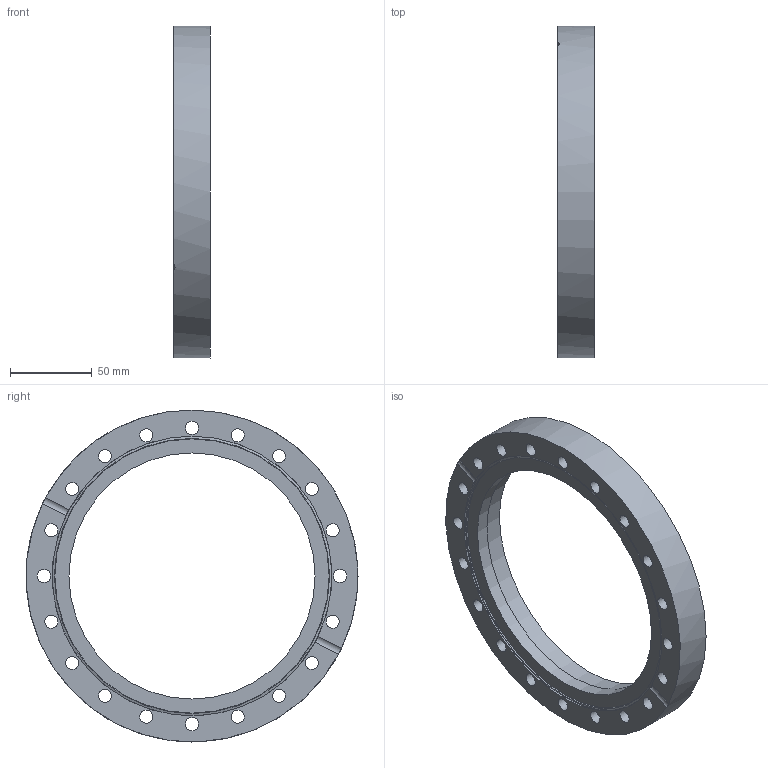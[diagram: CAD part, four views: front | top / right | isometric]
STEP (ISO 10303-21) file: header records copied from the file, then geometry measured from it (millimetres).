
FILE_DESCRIPTION( ( 'Unknown' ), '1' );
FILE_NAME( 'X:/Daten ( aktueller Bestand )/Projekte und Zeichnungen/Solid Edge/STP-Dateien/CF-Teile/7515FG4.stp', 'Unknown', ( 'Unknown' ), ( 'Unknown' ), 'PSStep 14.0', 'Unknown', ' ' );
FILE_SCHEMA( ( 'AUTOMOTIVE_DESIGN { 1 0 10303 214 1 1 1 1 }' ) );
Length unit declared in the file: millimetre
Products named in the file (2): Assem1; 1_9
Assembly tree (1 placements, depth 2):
  Assem1
    1_9
Bounding box: 22.3 x 203 x 203 mm (x, y, z)
Volume: 284024.4 mm3; surface area: 63545.9 mm2
Topology: 1 solids, 1 shells, 33 faces, 108 edges, 78 vertices
Faces by surface type: cylinder 26, plane 5, cone 2
Full cylindrical faces by diameter (mm): 8 x20, 150.5 x1, 154.5 x1, 171 x1, 203 x1
Entity records: 1356 total; most frequent: CARTESIAN_POINT 219, DIRECTION 178, ORIENTED_EDGE 120, EDGE_LOOP 102, AXIS2_PLACEMENT_3D 87, EDGE_CURVE 60, FACE_OUTER_BOUND 57, VERTEX_POINT 56
